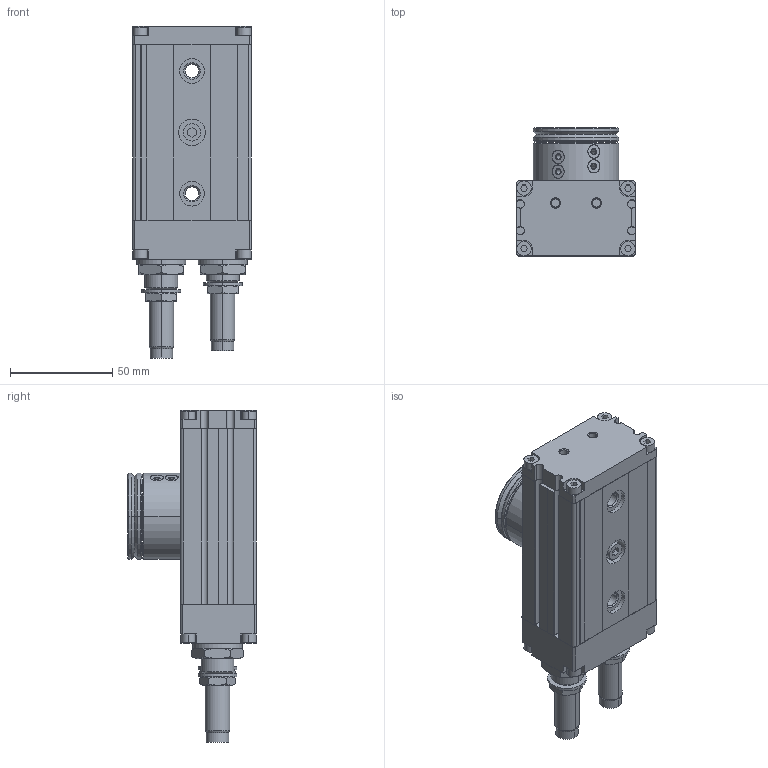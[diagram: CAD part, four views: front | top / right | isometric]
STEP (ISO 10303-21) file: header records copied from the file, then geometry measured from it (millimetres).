
FILE_DESCRIPTION((''),'2;1');
FILE_NAME('R412000392_ASM','2023-07-17T14:25:42',('THD3HC'),(''),'CREO PARAMETRIC BY PTC INC, 2020044','CREO PARAMETRIC BY PTC INC, 2020044','');
FILE_SCHEMA(('CONFIG_CONTROL_DESIGN','SHAPE_APPEARANCE_LAYERS_GROUPS'));
Length unit declared in the file: millimetre
Products named in the file (7): R412000392-A; R412000392-B; R412000392-D; R412000392-G; R412000392-E; R412000392-F; R412000392_ASM
Assembly tree (10 placements, depth 2):
  R412000392_ASM
    R412000392-A
    R412000392-B
    R412000392-D  x2
    R412000392-G  x2
    R412000392-E  x2
    R412000392-F  x2
Bounding box: 58 x 62.95 x 162.3 mm (x, y, z)
Volume: 283300.4 mm3; surface area: 66356 mm2
Topology: 10 solids, 10 shells, 654 faces, 1488 edges, 924 vertices
Faces by surface type: plane 315, cylinder 213, cone 126
Entity records: 23348 total; most frequent: CARTESIAN_POINT 3526, DIRECTION 2838, ORIENTED_EDGE 2560, PRESENTATION_STYLE_ASSIGNMENT 1521, STYLED_ITEM 1286, CURVE_STYLE 1280, EDGE_CURVE 1280, AXIS2_PLACEMENT_3D 1048
